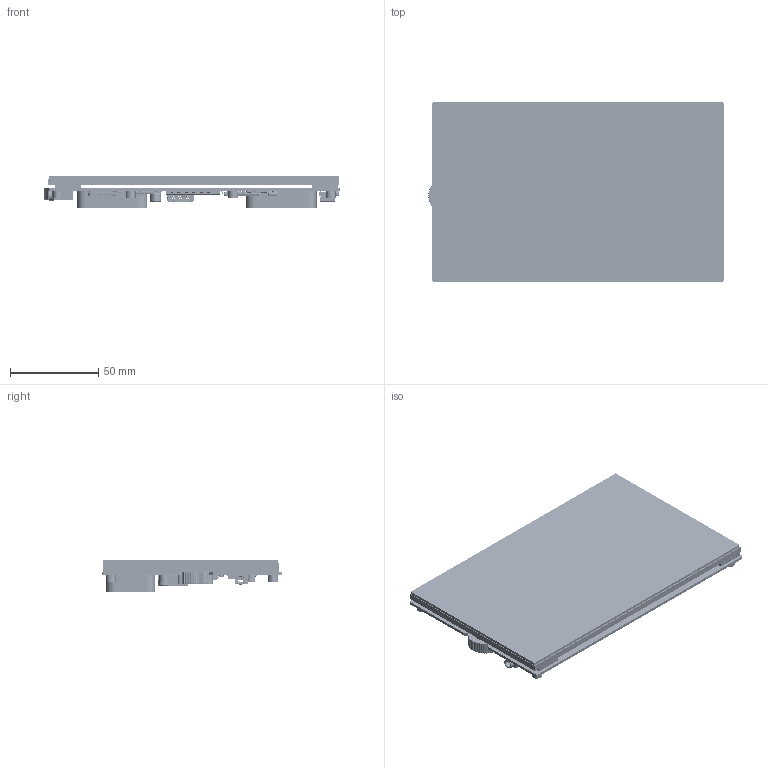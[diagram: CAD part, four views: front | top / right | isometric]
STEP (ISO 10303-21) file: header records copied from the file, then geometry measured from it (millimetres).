
FILE_DESCRIPTION(/* description */ ('CAx-IF Rec.Pracs.---Representation and Presentation of Product Manufacturing Information (PMI)---4.0---2014-10-13','CAx-IF Rec.Pracs.---3D Tessellated Geometry---0.4---2014-09-14','2;1'),/* implementation_level */ '2;1');
FILE_NAME(/* name */ '7H',/* time_stamp */ '2024-02-22T15:10:00+08:00',/* author */ (''),/* organization */ (''),/* preprocessor_version */ 'ST-DEVELOPER v16.7',/* originating_system */ $,/* authorisation */ $);
FILE_SCHEMA (('AP242_MANAGED_MODEL_BASED_3D_ENGINEERING_MIM_LF { 1 0 10303 442 20130219 1 4 }'));
Products named in the file (6): 7H; speaker; PASTE; 7inch_TOUCH; 7inch_screen; 7H_PCB
Assembly tree (7 placements, depth 2):
  7H
    speaker  x2
    PASTE  x2
    7inch_TOUCH
    7inch_screen
    7H_PCB
Bounding box: 167.33 x 102.2 x 18.12 mm (x, y, z)
Volume: 159405.5 mm3; surface area: 181732.2 mm2
Topology: 298 solids, 298 shells, 27556 faces, 74276 edges, 47875 vertices
Faces by surface type: plane 17301, bspline 5832, cylinder 3761, sphere 442, torus 168, cone 52
Full cylindrical faces by diameter (mm): 0.65 x2, 0.7 x6, 1.4 x2, 2.05 x8, 4.09 x8, 4.15 x8, 5.56 x8
Entity records: 1315617 total; most frequent: CARTESIAN_POINT 551354, ORIENTED_EDGE 147110, DIRECTION 112578, EDGE_CURVE 73555, LINE 54322, VECTOR 54322, VERTEX_POINT 47329, AXIS2_PLACEMENT_3D 29176
